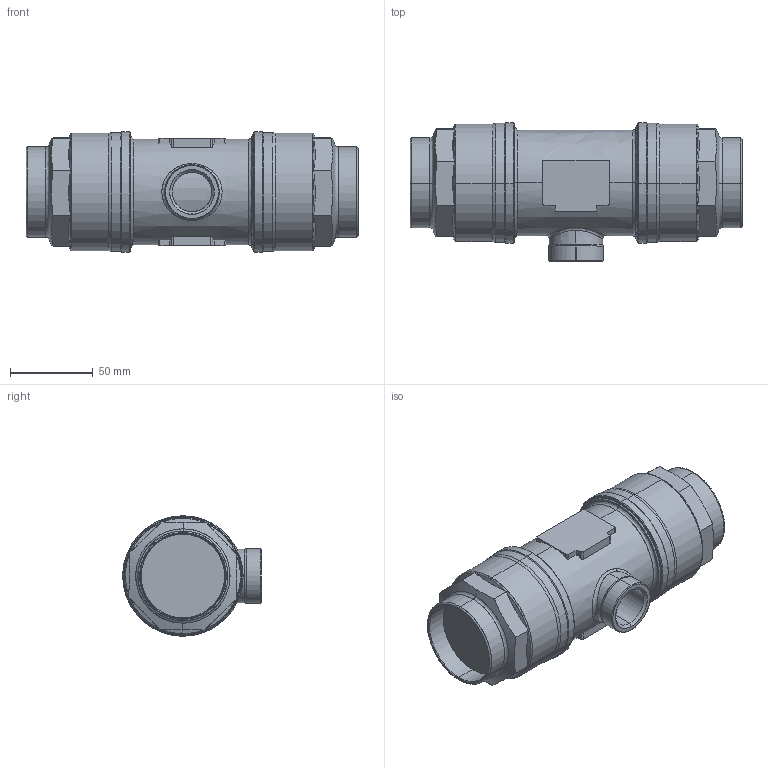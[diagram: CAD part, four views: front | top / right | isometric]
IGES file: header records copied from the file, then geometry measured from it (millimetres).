
Start section: SolidWorks IGES file using analytic representation for surfaces
Global section: file name: K:\Disegni Esecutivi\Serie 90.000\ASSIEMI_90000\90236\ASSIEMI_PIENI_90236\9023600004.IGS; native system: SolidWorks 2009; preprocessor: SolidWorks 2009; author: cad02; date: 090915.101455; units: millimetre
Bounding box: 201 x 84 x 72.99 mm (x, y, z)
Surface area: 57439.3 mm2 (no closed solid volume)
Topology: 0 solids, 0 shells, 158 faces, 2356 edges, 2356 vertices
Faces by surface type: revolution 97, bspline 61
